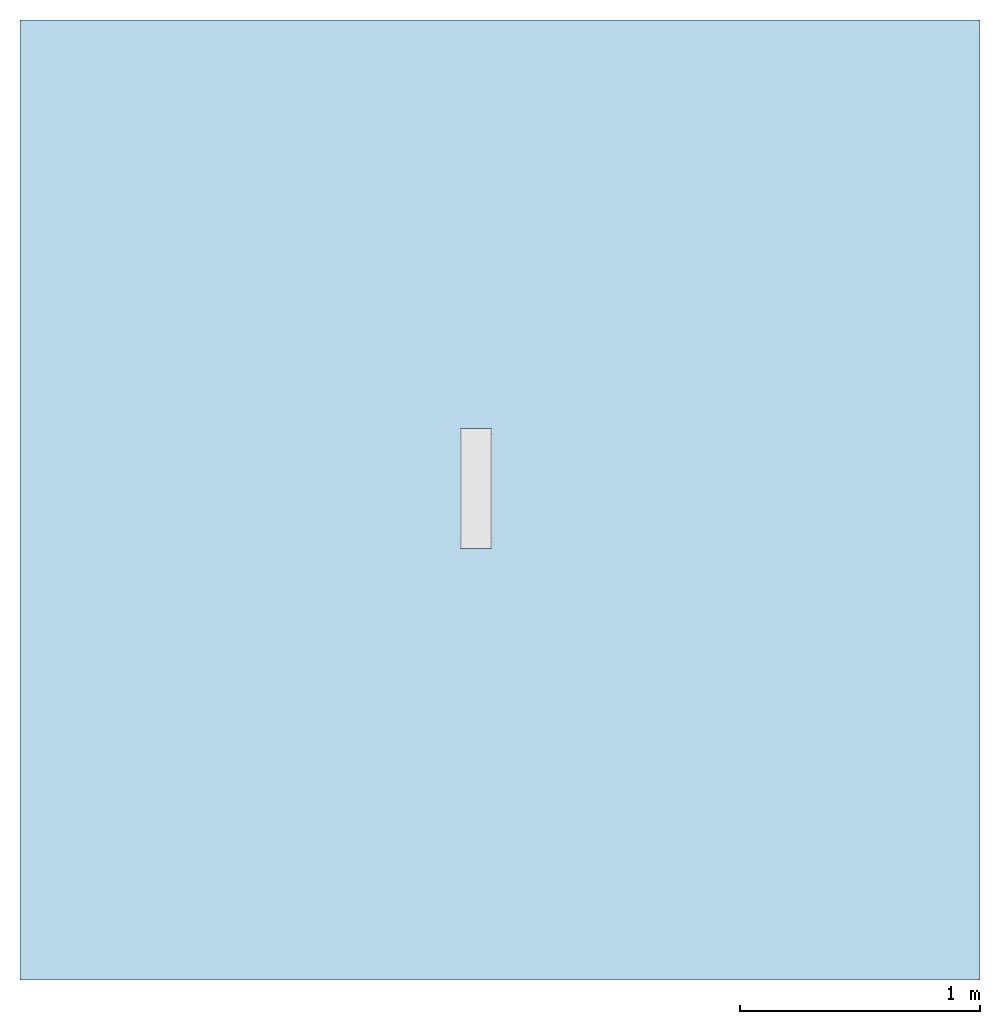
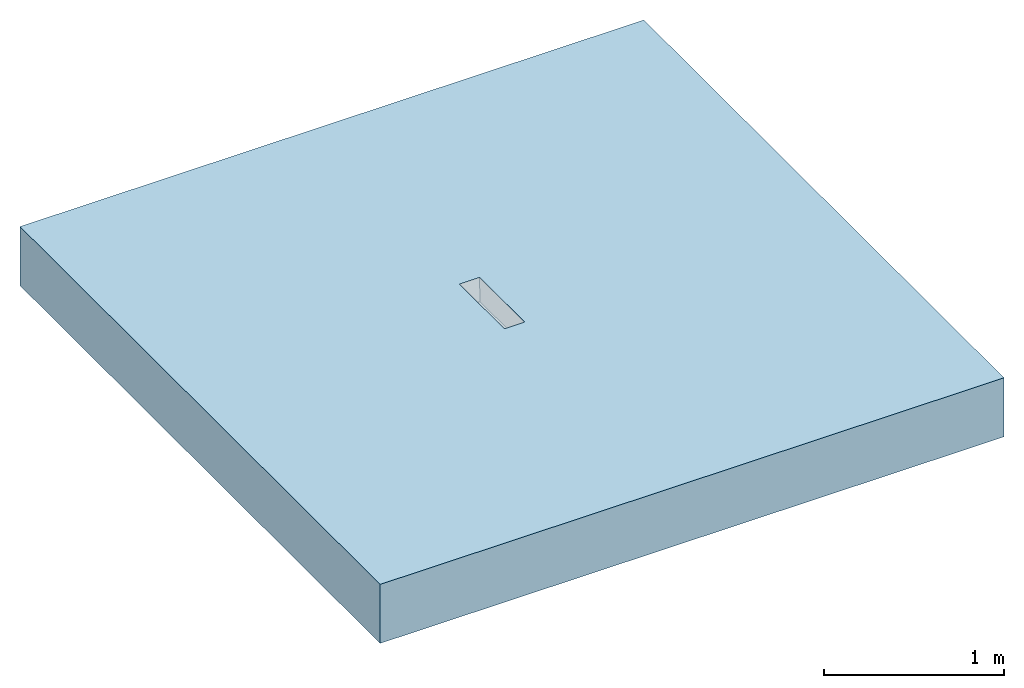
# One storey, incomplete: 1 slab, 1 opening.
"""IFC2X3 building model written with IfcOpenShell, lengths in millimetres."""

from ifc_helpers import new_model, entity, si_unit, converted_unit, derived_unit, direction, frame, frame_2d, origin, place, context, subcontext, project, spatial, polyline, rectangle, outline, extrude, material, layer, layer_set, layer_usage, element, save


model = new_model("IFC2X3")

# Units and contexts
model_context = context("Model", 3, precision=1e-05, world=origin(), true_north=direction((2.0, 6.12303176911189e-17, 1.0)))
context_of_model = context(None, 3, precision=1e-05, world=origin(), true_north=direction((2.0, 6.12303176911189e-17, 1.0)))
body_context = subcontext(model_context, "Body", "Model", "MODEL_VIEW")
ifc_project = project(units=[si_unit("LENGTHUNIT", "METRE", prefix="MILLI"), si_unit("AREAUNIT", "SQUARE_METRE"), si_unit("VOLUMEUNIT", "CUBIC_METRE"), converted_unit("PLANEANGLEUNIT", "DEGREE", entity("IfcRatioMeasure", 0.0174532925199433), si_unit("PLANEANGLEUNIT", "RADIAN"), dimensions=[0, 0, 0, 0, 0, 0, 0]), si_unit("MASSUNIT", "GRAM", prefix="KILO"), si_unit("TIMEUNIT", "SECOND"), si_unit("THERMODYNAMICTEMPERATUREUNIT", "KELVIN"), derived_unit("THERMALTRANSMITTANCEUNIT", [(si_unit("MASSUNIT", "GRAM", prefix="KILO"), 1), (si_unit("THERMODYNAMICTEMPERATUREUNIT", "KELVIN"), -1), (si_unit("TIMEUNIT", "SECOND"), -3)]), derived_unit("VOLUMETRICFLOWRATEUNIT", [(si_unit("LENGTHUNIT", "METRE"), 3), (si_unit("TIMEUNIT", "SECOND"), -1)]), si_unit("POWERUNIT", "WATT")], contexts=[model_context, context_of_model])

# Site, building, storey
site_placement = place(None, origin())
site = spatial("IfcSite", under=ifc_project, at=site_placement, Name="Default", CompositionType="ELEMENT")
building_placement = place(site_placement, origin())
building = spatial("IfcBuilding", under=site, at=building_placement, CompositionType="ELEMENT")
storey_placement = place(building_placement, origin())
storey = spatial("IfcBuildingStorey", under=building, at=storey_placement, Name="Level 1", CompositionType="ELEMENT", Elevation=0.0)

# Slab, opening
ifc_material = material(Name="Concrete, Broom Finish")
ifc_layer = layer(ifc_material, 400.0)
ifc_layer_set = layer_set([ifc_layer], Name="Floor:Generic Floor - 400mm")
ifc_layer_usage = layer_usage(ifc_layer_set, "AXIS3", "POSITIVE", 0.0)
slab_placement = place(storey_placement, origin())
slab = element("IfcSlab", 1, at=slab_placement, inside=storey, material=ifc_layer_usage, Name="Floor:Generic Floor - 400mm", ObjectType="Floor:Generic Floor - 400mm", PredefinedType="FLOOR", context=body_context, shape_type="SweptSolid", body=[
    extrude(rectangle(XDim=4000.0, YDim=4000.0, at=frame_2d((0.0, 0.0), x_axis=(0.0, -1.0))), frame((-42.176138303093, 2.05004766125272, 0.0), z_axis=(0.0, 0.0, -1.0), x_axis=(-1.0, 0.0, 0.0)), (0.0, 0.0, 1.0), 400.0),
])
opening_placement = place(slab_placement, origin())
element("IfcOpeningElement", 2, at=opening_placement, cuts=slab, ObjectType="Recess", context=body_context, shape_type="SweptSolid", body=[
    extrude(outline(polyline([(-3.75000000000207, -67.0), (86.2499999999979, -67.0), (86.2499999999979, 67.0), (-3.75000000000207, 67.0), (-3.74999999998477, 65.0), (-78.7500000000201, 65.0), (-78.7499999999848, -65.0), (-3.75000000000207, -65.0), (-3.75000000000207, -67.0)])), frame((-142.357081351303, -199.635246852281, -78.7500000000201), z_axis=(0.0, 1.0, 0.0), x_axis=(0.0, 0.0, -1.0)), (0.0, 0.0, 1.0), 500.0),
])

save(model, "model.ifc")
